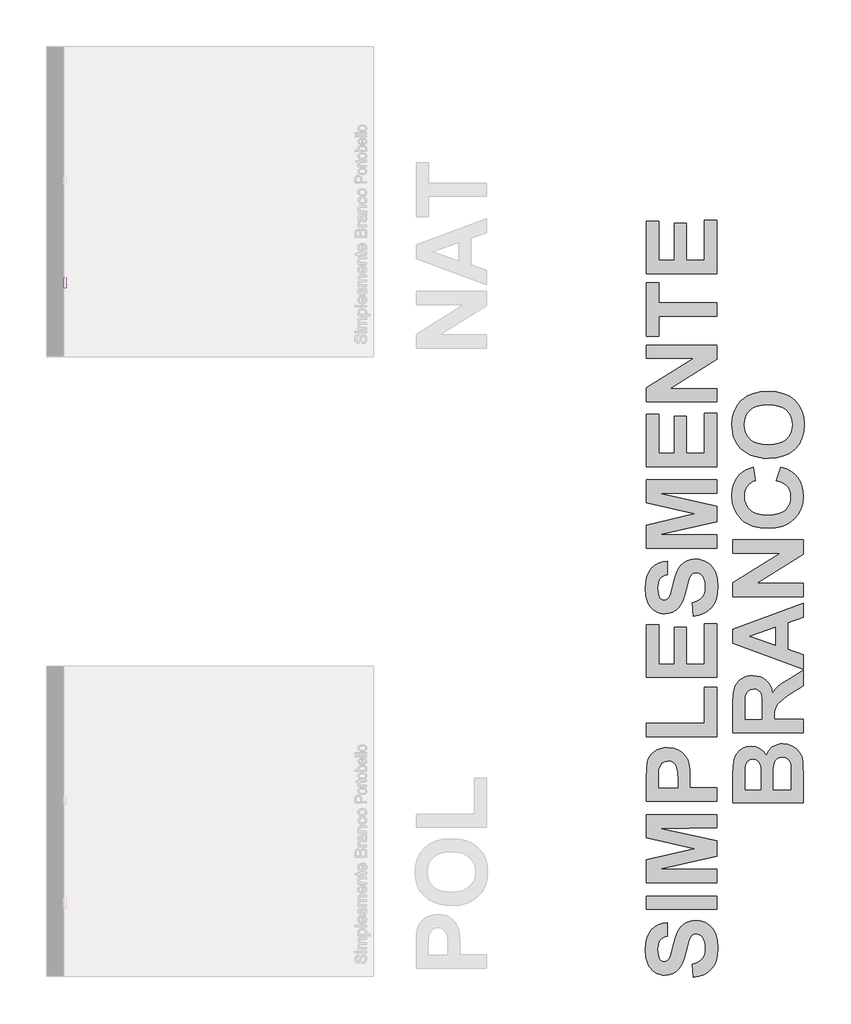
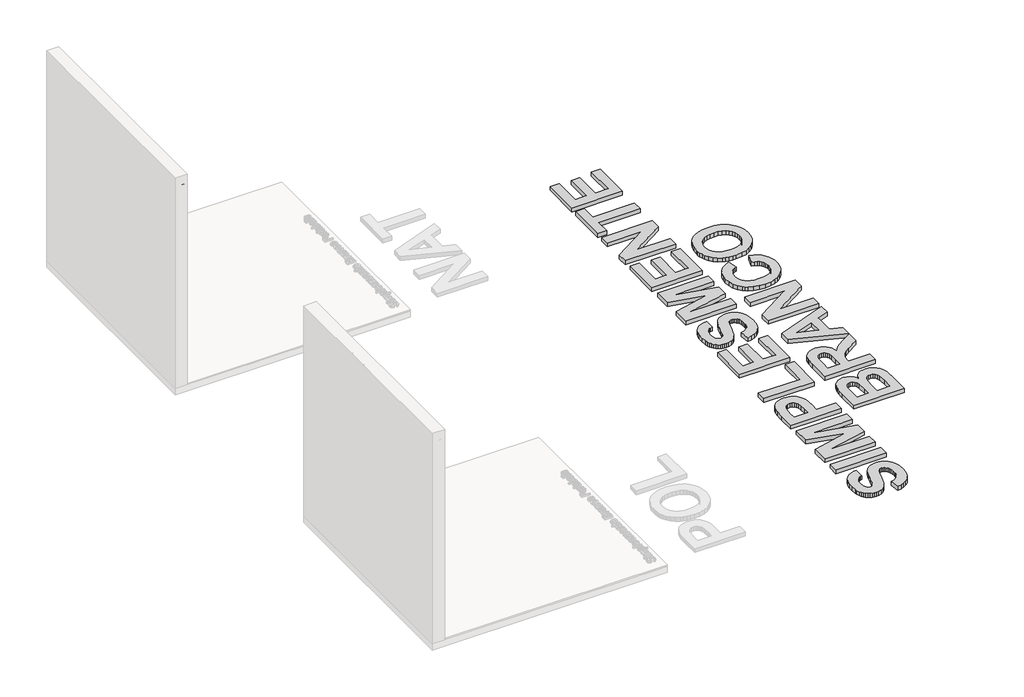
# One storey, part 4 of 6: 2 proxies.
"""IFC4 building model written with IfcOpenShell, lengths in millimetres."""

import ifcopenshell
import ifcopenshell.guid

model = None  # the IFC model being written
_history = None  # IfcOwnerHistory: only IFC2X3 demands one
_inside = {}  # id of a spatial element -> (the spatial element, [elements in it])
_under = {}  # id of a project, library or spatial element -> (it, [spatial elements below it])
_declared = {}  # id of a project -> (the project, [libraries it declares])
_typed = {}  # id of a type object -> (the type object, [elements of that type])
_made_of = {}  # id of a material, layer set ... -> (it, [elements and type objects made of it])


def new_model(schema):
    """Start an empty IFC model of exactly this schema.

    Asked for "IFC4X3", IfcOpenShell would pick the latest addendum, in which some entities
    have other attributes; the version numbers below select the first issue.
    IFC2X3 requires an IfcOwnerHistory on every rooted entity: one is made here for all.
    """
    global model, _history
    if schema == "IFC4X3":
        model = ifcopenshell.file(schema_version=(4, 3, 0, 0))
    else:
        model = ifcopenshell.file(schema=schema)
    _inside.clear()
    _under.clear()
    _declared.clear()
    _typed.clear()
    _made_of.clear()
    _history = None
    if model.schema == "IFC2X3":
        org = make("IfcOrganization", Name="unknown")
        user = make(
            "IfcPersonAndOrganization",
            ThePerson=make("IfcPerson", FamilyName="unknown"),
            TheOrganization=org,
        )
        app = make(
            "IfcApplication",
            ApplicationDeveloper=org,
            Version="unknown",
            ApplicationFullName="unknown",
            ApplicationIdentifier="unknown",
        )
        _history = make(
            "IfcOwnerHistory",
            OwningUser=user,
            OwningApplication=app,
            ChangeAction="ADDED",
            CreationDate=0,
        )
    return model


def make(cls, **values):
    """One entity of the class cls with the attributes given. An attribute that is None is left unset."""
    return model.create_entity(
        cls, **{name: value for name, value in values.items() if value is not None}
    )


def rooted(cls, **values):
    """An entity with a GlobalId (a new one), such as an element, a storey or a relation."""
    return make(cls, GlobalId=ifcopenshell.guid.new(), OwnerHistory=_history, **values)


def si_unit(unit_type, name, prefix=None):
    """IfcSIUnit, for example si_unit("LENGTHUNIT", "METRE", prefix="MILLI")."""
    return make("IfcSIUnit", UnitType=unit_type, Prefix=prefix, Name=name)


def assignment(units):
    """IfcUnitAssignment: the units of a project."""
    return None if units is None else make("IfcUnitAssignment", Units=units)


def point(xyz):
    """IfcCartesianPoint."""
    return None if xyz is None else make("IfcCartesianPoint", Coordinates=xyz)


def direction(xyz):
    """IfcDirection."""
    return None if xyz is None else make("IfcDirection", DirectionRatios=xyz)


def frame(location, z_axis=None, x_axis=None):
    """IfcAxis2Placement3D, a coordinate frame: its origin and axes. An axis left out is left unset."""
    return make(
        "IfcAxis2Placement3D",
        Location=point(location),
        Axis=direction(z_axis),
        RefDirection=direction(x_axis),
    )


def origin():
    """The frame at (0, 0, 0) with its axes left unset."""
    return frame((0.0, 0.0, 0.0))


def origin_with_axes():
    """The frame at (0, 0, 0) with the z axis (0, 0, 1) and the x axis (1, 0, 0) written out."""
    return frame((0.0, 0.0, 0.0), z_axis=(0.0, 0.0, 1.0), x_axis=(1.0, 0.0, 0.0))


def place(relative_to, where):
    """IfcLocalPlacement: puts the frame where relative to a parent placement (None: the world)."""
    return make(
        "IfcLocalPlacement", PlacementRelTo=relative_to, RelativePlacement=where
    )


def context(
    kind, dimensions, precision=None, world=None, true_north=None, identifier=None
):
    """IfcGeometricRepresentationContext, for example the 3D "Model" context."""
    return make(
        "IfcGeometricRepresentationContext",
        ContextIdentifier=identifier,
        ContextType=kind,
        CoordinateSpaceDimension=dimensions,
        Precision=precision,
        WorldCoordinateSystem=world,
        TrueNorth=true_north,
    )


def project(units=None, contexts=None):
    """IfcProject with its units and contexts."""
    return rooted(
        "IfcProject",
        Name="project",
        RepresentationContexts=contexts,
        UnitsInContext=assignment(units),
    )


def spatial(cls, under=None, at=None, **own):
    """A site, building, storey or space (cls), placed at a placement, below another one or the project."""
    s = rooted(cls, ObjectPlacement=at, **own)
    if under is not None:
        _under.setdefault(under.id(), (under, []))[1].append(s)
    return s


def polyline(points):
    """IfcPolyline through the points."""
    return make("IfcPolyline", Points=[point(p) for p in points])


def outline(outer, holes=None, kind="AREA"):
    """IfcArbitraryClosedProfileDef: a profile drawn as a closed curve; with holes, ...WithVoids."""
    if holes is None:
        return make("IfcArbitraryClosedProfileDef", ProfileType=kind, OuterCurve=outer)
    return make(
        "IfcArbitraryProfileDefWithVoids",
        ProfileType=kind,
        OuterCurve=outer,
        InnerCurves=holes,
    )


def extrude(swept, where, along, depth):
    """IfcExtrudedAreaSolid: the profile swept, set in the frame where, extruded along a direction by depth."""
    return make(
        "IfcExtrudedAreaSolid",
        SweptArea=swept,
        Position=where,
        ExtrudedDirection=direction(along),
        Depth=depth,
    )


def shape(context_of_items, identifier, shape_type, items):
    """IfcShapeRepresentation: the items that make up one representation, for example the "Body"."""
    return make(
        "IfcShapeRepresentation",
        ContextOfItems=context_of_items,
        RepresentationIdentifier=identifier,
        RepresentationType=shape_type,
        Items=items,
    )


def made_of(thing, what):
    """Note that an element or type object is made of a material, layer set ...; save() writes the relation."""
    if what is not None:
        _made_of.setdefault(what.id(), (what, []))[1].append(thing)
    return thing


def element(
    cls,
    number,
    at=None,
    inside=None,
    cuts=None,
    type_object=None,
    material=None,
    context=None,
    identifier="Body",
    shape_type=None,
    held_by="IfcProductDefinitionShape",
    body=None,
    shapes=None,
    **own,
):
    """One element of the class cls, such as IfcWall. Its Tag is "e" and its number.

    at: its placement. inside: the storey or other place that contains it. cuts: it is an
    opening in that element (IfcRelVoidsElement). A single representation is given by context,
    identifier, shape_type and body (its items); several are given by shapes. held_by: the class
    of the entity that holds the representations. save() writes the other relations.
    """
    e = rooted(cls, Tag="e%d" % number, ObjectPlacement=at, **own)
    if body is not None:
        shapes = [shape(context, identifier, shape_type, body)]
    if shapes is not None:
        e.Representation = make(held_by, Representations=shapes)
    if inside is not None:
        _inside.setdefault(inside.id(), (inside, []))[1].append(e)
    if cuts is not None:
        rooted(
            "IfcRelVoidsElement", RelatingBuildingElement=cuts, RelatedOpeningElement=e
        )
    if type_object is not None:
        _typed.setdefault(type_object.id(), (type_object, []))[1].append(e)
    return made_of(e, material)


def aggregate(whole, parts):
    """IfcRelAggregates: a whole, such as a stair, and the parts it consists of."""
    return rooted("IfcRelAggregates", RelatingObject=whole, RelatedObjects=parts)


def save(model, path):
    """Write the relations noted so far, then the file.

    IfcRelAggregates (storeys below a building ...), IfcRelContainedInSpatialStructure (elements
    in a storey), IfcRelDefinesByType, IfcRelAssociatesMaterial and IfcRelDeclares: one each for
    every whole, place, type object, material and project.
    """
    for whole, parts in _under.values():
        aggregate(whole, parts)
    for where, things in _inside.values():
        rooted(
            "IfcRelContainedInSpatialStructure",
            RelatedElements=things,
            RelatingStructure=where,
        )
    for kind, things in _typed.values():
        rooted("IfcRelDefinesByType", RelatedObjects=things, RelatingType=kind)
    for what, things in _made_of.values():
        rooted("IfcRelAssociatesMaterial", RelatedObjects=things, RelatingMaterial=what)
    for by, libraries in _declared.values():
        rooted("IfcRelDeclares", RelatingContext=by, RelatedDefinitions=libraries)
    model.write(path)


model = new_model("IFC4")

# Units and contexts
model_context = context("Model", 3, world=origin())
ifc_project = project(units=[si_unit("LENGTHUNIT", "METRE", prefix="MILLI")], contexts=[model_context])

# Site, building, storey
site = spatial("IfcSite", under=ifc_project)
building = spatial("IfcBuilding", under=site)
storey = spatial("IfcBuildingStorey", under=building, Name="PORTOBELLO - SHOWROOM", Elevation=0.0)

# Proxies
placement = place(None, origin())
element("IfcBuildingElementProxy", 1, Name="10mm Arial", ObjectType="10mm Arial", at=placement, inside=storey, context=model_context, shape_type="SweptSolid", body=[
    extrude(outline(polyline([(-2537.0459991, 2512.7580215), (-2524.4889603, 2512.7580215), (-2520.4422583, 2500.18872), (-2510.5584954, 2492.242469), (-2495.4998591, 2489.2135739), (-2482.3787346, 2491.506705), (-2473.9051859, 2497.8097498), (-2471.1215455, 2506.2342475), (-2473.2062102, 2514.070134), (-2481.7410724, 2519.7723049), (-2500.0248076, 2524.5670336), (-2519.7064943, 2530.7597138), (-2530.3873349, 2540.1039165), (-2533.9067394, 2552.5873789), (-2529.5534691, 2566.7998866), (-2516.8370148, 2576.8308024), (-2498.2221858, 2580.2521049), (-2478.3565581, 2576.6713868), (-2465.1128063, 2566.1499618), (-2460.1341366, 2550.4291379), (-2472.6911754, 2550.4291379), (-2474.9965692, 2557.9216678), (-2479.8035606, 2563.3295332), (-2497.7316765, 2567.6950662), (-2515.7088433, 2563.3785841), (-2521.3497006, 2552.9552609), (-2517.3520496, 2544.2487203), (-2496.8487597, 2537.234437), (-2474.6286872, 2530.9313921), (-2462.4763186, 2520.7533236), (-2458.5645067, 2506.5530786), (-2463.0649298, 2491.5312304), (-2476.0143761, 2480.568347), (-2495.0093497, 2476.6565351), (-2517.4378887, 2480.8749153), (-2531.625871, 2493.5791069), (-2537.0459991, 2512.7580215)])), frame((241170.995962, 0.0, 0.0), z_axis=(1.0, 0.0, 0.0), x_axis=(0.0, 1.0, 0.0)), (0.0, 0.0, 1.0), 20.0),
    extrude(outline(polyline([(241190.995962, -2428.7415397), (241190.995962, -2441.2985784), (241170.995962, -2441.2985784), (241170.995962, -2428.7415397), (241190.995962, -2428.7415397)])), frame((0.0, 0.0, 2566.1254363), z_axis=(0.0, 0.0, 1.0), x_axis=(1.0, 0.0, 0.0)), (0.0, 0.0, 1.0), 12.5570388),
    extrude(outline(polyline([(241190.995962, -2428.7415397), (241190.995962, -2441.2985784), (241170.995962, -2441.2985784), (241170.995962, -2428.7415397), (241190.995962, -2428.7415397)])), frame((0.0, 0.0, 2478.2261649), z_axis=(0.0, 0.0, 1.0), x_axis=(1.0, 0.0, 0.0)), (0.0, 0.0, 1.0), 73.7726028),
    extrude(outline(polyline([(-2409.9059815, 2478.2261649), (-2409.9059815, 2551.9987677), (-2397.3489427, 2551.9987677), (-2397.3489427, 2539.8586619), (-2388.7159786, 2549.8037385), (-2376.42872, 2553.5683975), (-2363.8471557, 2549.7301621), (-2356.9309742, 2538.9757451), (-2347.1330504, 2549.9202344), (-2334.7599526, 2553.5683975), (-2325.3207138, 2552.0508843), (-2318.3401529, 2547.4983446), (-2314.0267365, 2539.7881511), (-2312.5889311, 2528.7976765), (-2312.5889311, 2478.2261649), (-2325.1459698, 2478.2261649), (-2325.1459698, 2523.4020739), (-2326.3109295, 2533.8867108), (-2330.5293097, 2539.0493215), (-2337.7030086, 2541.0113588), (-2350.0515809, 2535.9836382), (-2353.7395979, 2529.44147), (-2354.9689369, 2519.8704068), (-2354.9689369, 2478.2261649), (-2367.5259757, 2478.2261649), (-2367.5259757, 2524.8000255), (-2370.4322434, 2536.9646568), (-2379.9603871, 2541.0113588), (-2389.2555389, 2538.3135575), (-2395.4359564, 2530.4163573), (-2397.3489427, 2515.4312974), (-2397.3489427, 2478.2261649), (-2409.9059815, 2478.2261649)])), frame((241170.995962, 0.0, 0.0), z_axis=(1.0, 0.0, 0.0), x_axis=(0.0, 1.0, 0.0)), (0.0, 0.0, 1.0), 20.0),
    extrude(outline(polyline([(-2293.7533729, 2449.9728277), (-2293.7533729, 2551.9987677), (-2281.1963341, 2551.9987677), (-2281.1963341, 2539.6869836), (-2272.5143191, 2550.0980441), (-2260.7911461, 2553.5683975), (-2244.8741185, 2548.7123552), (-2234.4753208, 2535.027145), (-2230.9681791, 2515.676552), (-2234.9290419, 2495.3326777), (-2246.4314856, 2481.4757892), (-2262.3117251, 2476.6565351), (-2273.2378203, 2479.8816339), (-2281.1963341, 2488.0363515), (-2281.1963341, 2449.9728277), (-2293.7533729, 2449.9728277)]), holes=[polyline([(-2281.1963341, 2514.5238551), (-2279.8382364, 2503.2666661), (-2275.7639433, 2495.3939914), (-2269.7521384, 2490.7586782), (-2262.5815052, 2489.2135739), (-2255.294376, 2490.8138605), (-2249.1292869, 2495.6147206), (-2244.9262351, 2503.7755695), (-2243.5252178, 2515.4558228), (-2244.8925126, 2526.6516982), (-2248.9943968, 2534.6347375), (-2254.9970047, 2539.4172035), (-2262.0664704, 2541.0113588), (-2269.1635272, 2539.3160359), (-2275.3960613, 2534.2300673), (-2279.7462659, 2525.9128686), (-2281.1963341, 2514.5238551)])]), frame((241170.995962, 0.0, 0.0), z_axis=(1.0, 0.0, 0.0), x_axis=(0.0, 1.0, 0.0)), (0.0, 0.0, 1.0), 20.0),
    extrude(outline(polyline([(241190.995962, -2204.2844717), (241190.995962, -2216.8415104), (241170.995962, -2216.8415104), (241170.995962, -2204.2844717), (241190.995962, -2204.2844717)])), frame((0.0, 0.0, 2478.2261649), z_axis=(0.0, 0.0, 1.0), x_axis=(1.0, 0.0, 0.0)), (0.0, 0.0, 1.0), 100.4563101),
    extrude(outline(polyline([(-2133.7982814, 2500.2009828), (-2121.4864973, 2498.6313529), (-2125.922541, 2489.3545953), (-2133.0012037, 2482.4200197), (-2142.5630699, 2478.0974062), (-2154.4487241, 2476.6565351), (-2169.182398, 2479.1428042), (-2180.5192948, 2486.6016117), (-2187.748176, 2498.5485795), (-2190.1578031, 2514.4993297), (-2187.7236505, 2530.9865744), (-2180.4211929, 2543.3167526), (-2169.2375803, 2551.0054863), (-2155.1599626, 2553.5683975), (-2141.5207376, 2551.0116177), (-2130.6222335, 2543.3412781), (-2123.4761258, 2531.0356253), (-2121.0940898, 2514.5729061), (-2121.1676662, 2511.1883917), (-2177.6007643, 2511.1883917), (-2175.4271948, 2501.7890067), (-2170.3780145, 2494.8789566), (-2163.0908853, 2490.6299195), (-2154.2034694, 2489.2135739), (-2141.8916853, 2491.8377988), (-2133.7982814, 2500.2009828)]), holes=[polyline([(-2177.6007643, 2523.7454305), (-2133.6511286, 2523.7454305), (-2138.6788492, 2535.1252469), (-2145.9997009, 2539.5398308), (-2155.2090135, 2541.0113588), (-2170.6723201, 2536.314732), (-2175.5375594, 2530.8240932), (-2177.6007643, 2523.7454305)])]), frame((241170.995962, 0.0, 0.0), z_axis=(1.0, 0.0, 0.0), x_axis=(0.0, 1.0, 0.0)), (0.0, 0.0, 1.0), 20.0),
    extrude(outline(polyline([(-2113.2459406, 2500.2009828), (-2100.6889018, 2501.7706126), (-2094.8763663, 2492.4509354), (-2081.5590381, 2489.2135739), (-2068.7567447, 2492.1811553), (-2064.5874154, 2499.1463877), (-2068.7812701, 2504.787245), (-2081.7061909, 2508.3679631), (-2100.6153254, 2514.5115924), (-2108.8681449, 2521.6852913), (-2111.6763108, 2531.8143089), (-2109.4199679, 2541.1707743), (-2103.2640758, 2548.3199478), (-2095.2810365, 2552.0355559), (-2084.4775686, 2553.5683975), (-2069.1982031, 2551.1035882), (-2059.4861184, 2544.4326613), (-2055.1696363, 2533.1632095), (-2067.7266751, 2531.5935797), (-2072.4478273, 2538.5220239), (-2083.4965499, 2541.0113588), (-2095.5140284, 2538.6323885), (-2099.119272, 2533.0896331), (-2097.6232185, 2529.4353387), (-2092.9388545, 2526.663961), (-2082.1231238, 2523.9906851), (-2063.6922359, 2518.0800477), (-2055.1328481, 2511.3845954), (-2052.0303766, 2500.4707629), (-2055.6724084, 2488.4532844), (-2066.1815707, 2479.7344811), (-2081.7307164, 2476.6565351), (-2094.3919884, 2478.1403258), (-2103.6319578, 2482.5916979), (-2109.8001126, 2489.9616006), (-2113.2459406, 2500.2009828)])), frame((241170.995962, 0.0, 0.0), z_axis=(1.0, 0.0, 0.0), x_axis=(0.0, 1.0, 0.0)), (0.0, 0.0, 1.0), 20.0),
    extrude(outline(polyline([(-2037.903708, 2478.2261649), (-2037.903708, 2551.9987677), (-2025.3466692, 2551.9987677), (-2025.3466692, 2539.8586619), (-2016.7137051, 2549.8037385), (-2004.4264464, 2553.5683975), (-1991.8448822, 2549.7301621), (-1984.9287007, 2538.9757451), (-1975.1307769, 2549.9202344), (-1962.7576791, 2553.5683975), (-1953.3184403, 2552.0508843), (-1946.3378794, 2547.4983446), (-1942.024463, 2539.7881511), (-1940.5866575, 2528.7976765), (-1940.5866575, 2478.2261649), (-1953.1436963, 2478.2261649), (-1953.1436963, 2523.4020739), (-1954.308656, 2533.8867108), (-1958.5270362, 2539.0493215), (-1965.7007351, 2541.0113588), (-1978.0493074, 2535.9836382), (-1981.7373244, 2529.44147), (-1982.9666634, 2519.8704068), (-1982.9666634, 2478.2261649), (-1995.5237021, 2478.2261649), (-1995.5237021, 2524.8000255), (-1998.4299699, 2536.9646568), (-2007.9581136, 2541.0113588), (-2017.2532653, 2538.3135575), (-2023.4336829, 2530.4163573), (-2025.3466692, 2515.4312974), (-2025.3466692, 2478.2261649), (-2037.903708, 2478.2261649)])), frame((241170.995962, 0.0, 0.0), z_axis=(1.0, 0.0, 0.0), x_axis=(0.0, 1.0, 0.0)), (0.0, 0.0, 1.0), 20.0),
    extrude(outline(polyline([(-1870.1004673, 2500.2009828), (-1857.7886832, 2498.6313529), (-1862.2247269, 2489.3545953), (-1869.3033896, 2482.4200197), (-1878.8652558, 2478.0974062), (-1890.7509099, 2476.6565351), (-1905.4845838, 2479.1428042), (-1916.8214806, 2486.6016117), (-1924.0503619, 2498.5485795), (-1926.4599889, 2514.4993297), (-1924.0258364, 2530.9865744), (-1916.7233788, 2543.3167526), (-1905.5397661, 2551.0054863), (-1891.4621484, 2553.5683975), (-1877.8229235, 2551.0116177), (-1866.9244194, 2543.3412781), (-1859.7783116, 2531.0356253), (-1857.3962757, 2514.5729061), (-1857.4698521, 2511.1883917), (-1913.9029502, 2511.1883917), (-1911.7293807, 2501.7890067), (-1906.6802003, 2494.8789566), (-1899.3930711, 2490.6299195), (-1890.5056553, 2489.2135739), (-1878.1938712, 2491.8377988), (-1870.1004673, 2500.2009828)]), holes=[polyline([(-1913.9029502, 2523.7454305), (-1869.9533145, 2523.7454305), (-1874.9810351, 2535.1252469), (-1882.3018868, 2539.5398308), (-1891.5111994, 2541.0113588), (-1906.9745059, 2536.314732), (-1911.8397453, 2530.8240932), (-1913.9029502, 2523.7454305)])]), frame((241170.995962, 0.0, 0.0), z_axis=(1.0, 0.0, 0.0), x_axis=(0.0, 1.0, 0.0)), (0.0, 0.0, 1.0), 20.0),
    extrude(outline(polyline([(-1844.8392369, 2478.2261649), (-1844.8392369, 2551.9987677), (-1832.2821982, 2551.9987677), (-1832.2821982, 2541.6980718), (-1822.6804781, 2550.6008161), (-1809.5716163, 2553.5683975), (-1797.7135533, 2551.1771646), (-1789.6201494, 2544.8986452), (-1785.8554904, 2535.6648071), (-1785.1933028, 2523.5247013), (-1785.1933028, 2478.2261649), (-1797.7503415, 2478.2261649), (-1797.7503415, 2521.8324441), (-1799.1973441, 2532.9424804), (-1804.3109038, 2538.8163295), (-1812.9316052, 2541.0113588), (-1826.5555018, 2536.08174), (-1830.8505241, 2528.938698), (-1832.2821982, 2517.3688092), (-1832.2821982, 2478.2261649), (-1844.8392369, 2478.2261649)])), frame((241170.995962, 0.0, 0.0), z_axis=(1.0, 0.0, 0.0), x_axis=(0.0, 1.0, 0.0)), (0.0, 0.0, 1.0), 20.0),
    extrude(outline(polyline([(-1741.2436671, 2488.6985391), (-1739.6740372, 2477.8582829), (-1749.0672908, 2476.6565351), (-1759.5887159, 2478.7411997), (-1764.8371657, 2484.2103787), (-1766.3577446, 2498.4596747), (-1766.3577446, 2539.4417289), (-1775.7755237, 2539.4417289), (-1775.7755237, 2551.9987677), (-1766.3577446, 2551.9987677), (-1766.3577446, 2569.9268836), (-1753.8007059, 2577.309049), (-1753.8007059, 2551.9987677), (-1741.2436671, 2551.9987677), (-1741.2436671, 2539.4417289), (-1753.8007059, 2539.4417289), (-1753.8007059, 2498.8275567), (-1753.1385183, 2492.3528336), (-1750.99254, 2490.0597024), (-1746.7128461, 2489.2135739), (-1741.2436671, 2488.6985391)])), frame((241170.995962, 0.0, 0.0), z_axis=(1.0, 0.0, 0.0), x_axis=(0.0, 1.0, 0.0)), (0.0, 0.0, 1.0), 20.0),
    extrude(outline(polyline([(-1677.0359962, 2500.2009828), (-1664.7242121, 2498.6313529), (-1669.1602558, 2489.3545953), (-1676.2389185, 2482.4200197), (-1685.8007847, 2478.0974062), (-1697.6864389, 2476.6565351), (-1712.4201128, 2479.1428042), (-1723.7570096, 2486.6016117), (-1730.9858908, 2498.5485795), (-1733.3955179, 2514.4993297), (-1730.9613653, 2530.9865744), (-1723.6589077, 2543.3167526), (-1712.4752951, 2551.0054863), (-1698.3976774, 2553.5683975), (-1684.7584524, 2551.0116177), (-1673.8599483, 2543.3412781), (-1666.7138405, 2531.0356253), (-1664.3318046, 2514.5729061), (-1664.405381, 2511.1883917), (-1720.8384791, 2511.1883917), (-1718.6649096, 2501.7890067), (-1713.6157292, 2494.8789566), (-1706.3286001, 2490.6299195), (-1697.4411842, 2489.2135739), (-1685.1294001, 2491.8377988), (-1677.0359962, 2500.2009828)]), holes=[polyline([(-1720.8384791, 2523.7454305), (-1676.8888434, 2523.7454305), (-1681.916564, 2535.1252469), (-1689.2374157, 2539.5398308), (-1698.4467283, 2541.0113588), (-1713.9100348, 2536.314732), (-1718.7752742, 2530.8240932), (-1720.8384791, 2523.7454305)])]), frame((241170.995962, 0.0, 0.0), z_axis=(1.0, 0.0, 0.0), x_axis=(0.0, 1.0, 0.0)), (0.0, 0.0, 1.0), 20.0),
    extrude(outline(polyline([(-1610.9643899, 2478.2261649), (-1610.9643899, 2578.6824751), (-1572.631086, 2578.6824751), (-1553.8568415, 2575.7271564), (-1542.7713307, 2566.6404711), (-1538.7614169, 2553.7891267), (-1542.1336686, 2542.0536911), (-1552.3239998, 2533.1632095), (-1539.9509021, 2523.7944814), (-1535.6221572, 2508.1717593), (-1538.5774759, 2494.6704901), (-1545.8983276, 2485.0565073), (-1556.8244229, 2479.9552103), (-1572.9253916, 2478.2261649), (-1610.9643899, 2478.2261649)]), holes=[polyline([(-1598.4073511, 2537.8720991), (-1575.4760401, 2537.8720991), (-1562.0851354, 2538.9512196), (-1554.0285197, 2543.5987955), (-1551.3184557, 2551.7780385), (-1553.8445787, 2559.9695443), (-1561.0795913, 2564.8133239), (-1577.2173482, 2566.1254363), (-1598.4073511, 2566.1254363), (-1598.4073511, 2537.8720991)]), polyline([(-1598.4073511, 2490.7832037), (-1572.6556114, 2490.7832037), (-1563.3359342, 2491.273713), (-1555.4509968, 2494.0083025), (-1550.2270725, 2499.5878461), (-1548.179196, 2508.049132), (-1550.5826917, 2517.8102676), (-1558.3695273, 2523.6350659), (-1573.8818847, 2525.3150603), (-1598.4073511, 2525.3150603), (-1598.4073511, 2490.7832037)])]), frame((241170.995962, 0.0, 0.0), z_axis=(1.0, 0.0, 0.0), x_axis=(0.0, 1.0, 0.0)), (0.0, 0.0, 1.0), 20.0),
    extrude(outline(polyline([(-1519.9258588, 2478.2261649), (-1519.9258588, 2551.9987677), (-1508.9384499, 2551.9987677), (-1508.9384499, 2541.0849352), (-1501.1393516, 2551.1403764), (-1493.2912023, 2553.5683975), (-1480.6851126, 2549.6933739), (-1484.8789674, 2538.4361848), (-1493.7081353, 2541.0113588), (-1500.8082578, 2538.5342867), (-1505.3332063, 2531.6671561), (-1507.36882, 2517.0009272), (-1507.36882, 2478.2261649), (-1519.9258588, 2478.2261649)])), frame((241170.995962, 0.0, 0.0), z_axis=(1.0, 0.0, 0.0), x_axis=(0.0, 1.0, 0.0)), (0.0, 0.0, 1.0), 20.0),
    extrude(outline(polyline([(-1425.748068, 2487.643944), (-1437.9249621, 2479.1336072), (-1451.3771804, 2476.6565351), (-1461.8710143, 2478.1464572), (-1469.6118646, 2482.6162234), (-1474.3851335, 2489.4036462), (-1475.9762231, 2497.846538), (-1473.5727274, 2507.7793519), (-1467.2574198, 2514.989839), (-1458.4650401, 2519.1101173), (-1447.6002585, 2520.9985782), (-1425.8216444, 2525.3150603), (-1425.748068, 2528.1109635), (-1429.2061588, 2537.3815898), (-1443.0875727, 2541.0113588), (-1455.7917643, 2538.5956003), (-1461.8495545, 2530.0239499), (-1474.4065932, 2531.5935797), (-1468.9742025, 2543.8563129), (-1458.0358445, 2551.0422745), (-1441.4688919, 2553.5683975), (-1426.2508401, 2551.3365801), (-1417.6546641, 2545.7325111), (-1413.8041659, 2537.2099115), (-1413.1910293, 2526.2225026), (-1413.1910293, 2510.5997805), (-1412.5533671, 2488.7843782), (-1410.0517696, 2478.2261649), (-1422.6088083, 2478.2261649), (-1425.748068, 2487.643944)]), holes=[polyline([(-1425.748068, 2512.7580215), (-1446.0061032, 2508.9075233), (-1456.8095711, 2506.8719096), (-1461.7024017, 2503.5609717), (-1463.4191843, 2498.7294548), (-1459.6790507, 2491.9359006), (-1448.7039045, 2489.2135739), (-1435.999713, 2492.2179435), (-1427.8082072, 2499.4897443), (-1425.8216444, 2509.2018289), (-1425.748068, 2512.7580215)])]), frame((241170.995962, 0.0, 0.0), z_axis=(1.0, 0.0, 0.0), x_axis=(0.0, 1.0, 0.0)), (0.0, 0.0, 1.0), 20.0),
    extrude(outline(polyline([(-1395.9251009, 2478.2261649), (-1395.9251009, 2551.9987677), (-1383.3680622, 2551.9987677), (-1383.3680622, 2541.6980718), (-1373.7663421, 2550.6008161), (-1360.6574803, 2553.5683975), (-1348.7994174, 2551.1771646), (-1340.7060135, 2544.8986452), (-1336.9413544, 2535.6648071), (-1336.2791668, 2523.5247013), (-1336.2791668, 2478.2261649), (-1348.8362056, 2478.2261649), (-1348.8362056, 2521.8324441), (-1350.2832081, 2532.9424804), (-1355.3967678, 2538.8163295), (-1364.0174692, 2541.0113588), (-1377.6413658, 2536.08174), (-1381.9363881, 2528.938698), (-1383.3680622, 2517.3688092), (-1383.3680622, 2478.2261649), (-1395.9251009, 2478.2261649)])), frame((241170.995962, 0.0, 0.0), z_axis=(1.0, 0.0, 0.0), x_axis=(0.0, 1.0, 0.0)), (0.0, 0.0, 1.0), 20.0),
    extrude(outline(polyline([(-1271.9243431, 2504.9098723), (-1259.3673043, 2503.3402425), (-1262.8683147, 2492.1719582), (-1269.447271, 2483.7321321), (-1278.4849054, 2478.4254343), (-1289.3619497, 2476.6565351), (-1302.7191318, 2479.1244101), (-1313.1639148, 2486.5280353), (-1319.9053523, 2498.5424481), (-1322.1524982, 2514.8426862), (-1318.3142627, 2535.7015953), (-1306.6156152, 2549.1047627), (-1289.5336279, 2553.5683975), (-1278.9232981, 2552.0355559), (-1270.4405524, 2547.437031), (-1264.3551711, 2540.0180774), (-1260.9369342, 2530.0239499), (-1273.4939729, 2528.45432), (-1279.3187712, 2537.8598364), (-1289.4355261, 2541.0113588), (-1297.5503898, 2539.460123), (-1303.9913903, 2534.8064158), (-1308.1944421, 2526.798851), (-1309.5954594, 2515.1860427), (-1308.225099, 2503.4168846), (-1304.1140177, 2495.3817286), (-1297.789513, 2490.7556126), (-1289.7788826, 2489.2135739), (-1277.9453451, 2493.0640721), (-1271.9243431, 2504.9098723)])), frame((241170.995962, 0.0, 0.0), z_axis=(1.0, 0.0, 0.0), x_axis=(0.0, 1.0, 0.0)), (0.0, 0.0, 1.0), 20.0),
    extrude(outline(polyline([(-1251.5191551, 2515.1124663), (-1248.8029597, 2532.8995608), (-1240.6543735, 2545.4014173), (-1230.5866696, 2551.5266525), (-1218.5324029, 2553.5683975), (-1205.3407677, 2551.0821284), (-1194.8040142, 2543.6233209), (-1187.8970297, 2531.7805864), (-1185.5947016, 2516.1425359), (-1189.665929, 2493.7998361), (-1201.523992, 2481.1569582), (-1218.5324029, 2476.6565351), (-1231.8834536, 2479.1336072), (-1242.4079444, 2486.5648235), (-1249.2413524, 2498.6558784), (-1251.5191551, 2515.1124663)]), holes=[polyline([(-1238.9621163, 2515.1369918), (-1237.5089825, 2503.7725038), (-1233.1495808, 2495.6760342), (-1226.5890186, 2490.829189), (-1218.5324029, 2489.2135739), (-1210.5125754, 2490.838386), (-1203.9642759, 2495.7128224), (-1199.6048742, 2503.9165909), (-1198.1517403, 2515.5293992), (-1199.6140713, 2526.5627934), (-1204.0010641, 2534.5488984), (-1210.5585606, 2539.3957437), (-1218.5324029, 2541.0113588), (-1226.5890186, 2539.4018751), (-1233.1495808, 2534.5734239), (-1237.5089825, 2526.4953484), (-1238.9621163, 2515.1369918)])]), frame((241170.995962, 0.0, 0.0), z_axis=(1.0, 0.0, 0.0), x_axis=(0.0, 1.0, 0.0)), (0.0, 0.0, 1.0), 20.0),
])
element("IfcBuildingElementProxy", 2, Name="600mm Arial", ObjectType="600mm Arial", at=placement, inside=storey, context=model_context, shape_type="SweptSolid", body=[
    extrude(outline(polyline([(246657.8926383, -8039.7904202), (246648.1758822, -7923.1893459), (246676.2444025, -7916.1295152), (246700.3275345, -7906.1850226), (246720.4252783, -7893.3558679), (246736.5376338, -7877.6420513), (246748.8923374, -7858.9961275), (246757.7171258, -7837.3706516), (246763.0119988, -7812.7656235), (246764.7769564, -7785.1810432), (246763.2160127, -7756.1920879), (246758.5331815, -7731.0177186), (246750.7284627, -7709.6579352), (246739.8018565, -7692.1127378), (246726.787666, -7678.4295713), (246712.7201943, -7668.655881), (246697.5994413, -7662.7916668), (246681.4254072, -7660.8369288), (246661.593356, -7664.0821735), (246644.9116594, -7673.8179078), (246630.8109761, -7691.6762429), (246618.721965, -7719.2892902), (246592.760007, -7820.4042843), (246580.0921657, -7867.3369759), (246565.9250592, -7906.7164077), (246550.2586877, -7938.5425798), (246533.093051, -7962.8154923), (246506.5143068, -7987.9898616), (246477.1837469, -8005.9715539), (246445.1013712, -8016.7605693), (246410.2671798, -8020.3569078), (246387.3417082, -8018.7058184), (246365.1753581, -8013.7525501), (246343.7681296, -8005.4971029), (246323.1200227, -7993.9394769), (246304.0565821, -7979.2694524), (246287.4033525, -7961.6768099), (246273.1603339, -7941.1615493), (246261.3275263, -7917.7236706), (246252.028287, -7891.5434652), (246245.3859732, -7862.8012244), (246240.0721222, -7797.630637), (246243.3837901, -7743.7187715), (246253.3187937, -7696.9141817), (246269.8771331, -7657.2168678), (246293.0588083, -7624.6268295), (246321.7630929, -7599.0396879), (246354.8892607, -7580.3510635), (246392.4373118, -7568.5609565), (246434.407246, -7563.6693669), (246434.407246, -7680.2704412), (246412.7390694, -7685.5415916), (246394.3446047, -7693.1565299), (246379.2238518, -7703.1152561), (246367.3768107, -7715.4177702), (246358.4428986, -7730.5764792), (246352.0615329, -7749.1037902), (246346.9564403, -7796.2642182), (246352.3841595, -7845.9107693), (246359.1688086, -7866.1793155), (246368.6673174, -7883.4113753), (246384.9884313, -7898.669719), (246406.016099, -7903.7558335), (246425.8671282, -7899.1251919), (246442.605759, -7885.233267), (246452.3272597, -7869.2679914), (246462.2100737, -7844.9049333), (246482.4596418, -7770.9854697), (246503.5252656, -7692.0937597), (246525.5777474, -7636.8486869), (246552.2798489, -7598.1334865), (246587.2943317, -7568.8313936), (246608.0278397, -7558.0708453), (246631.0576906, -7550.3847393), (246656.3838842, -7545.7730757), (246684.0064206, -7544.2358545), (246709.702686, -7546.0530018), (246734.5639177, -7551.5044436), (246758.5901156, -7560.59018), (246781.7812798, -7573.3102109), (246803.0936181, -7589.3561433), (246821.4833383, -7608.4195839), (246836.9504404, -7630.5005328), (246849.4949245, -7655.5989899), (246859.1927026, -7683.8430571), (246866.119687, -7715.3608361), (246871.6612745, -7788.2175295), (246868.2499719, -7842.7034807), (246858.0160642, -7890.4712059), (246840.9595512, -7931.5207052), (246817.0804331, -7965.8519786), (246786.6633804, -7993.7022514), (246749.9930637, -8015.3087493), (246707.069483, -8030.6714723), (246657.8926383, -8039.7904202)])), origin_with_axes(), (0.0, 0.0, 1.0), 50.0),
    extrude(outline(polyline([(246861.9445183, -7447.0682926), (246249.7888784, -7447.0682926), (246249.7888784, -7330.4672183), (246861.9445183, -7330.4672183), (246861.9445183, -7447.0682926)])), origin_with_axes(), (0.0, 0.0, 1.0), 50.0),
    extrude(outline(polyline([(246861.9445183, -7213.866144), (246249.7888784, -7213.866144), (246249.7888784, -7014.0653449), (246667.3057459, -6917.5050802), (246249.7888784, -6820.9448156), (246249.7888784, -6621.1440164), (246861.9445183, -6621.1440164), (246861.9445183, -6737.7450907), (246380.054141, -6742.6034688), (246861.9445183, -6849.1841383), (246861.9445183, -6985.6741979), (246380.054141, -7092.4066917), (246861.9445183, -7097.2650698), (246861.9445183, -7213.866144)])), origin_with_axes(), (0.0, 0.0, 1.0), 50.0),
    extrude(outline(polyline([(246861.9445183, -6504.5429422), (246249.7888784, -6504.5429422), (246249.7888784, -6307.3231564), (246252.0662431, -6214.6723679), (246258.8983373, -6161.1163406), (246267.7468482, -6135.9941609), (246280.6281924, -6113.0070106), (246297.5423701, -6092.1548898), (246318.4893811, -6073.4377984), (246343.1181318, -6057.9944188), (246371.0775284, -6046.9634334), (246402.3675709, -6040.3448421), (246436.9882593, -6038.138645), (246488.5515925, -6043.3196498), (246510.9883796, -6049.7959058), (246531.1952471, -6058.8626641), (246565.2798059, -6082.395433), (246591.1658517, -6111.5457016), (246609.2898794, -6143.7514345), (246620.0883838, -6176.4505964), (246626.5788733, -6231.2971304), (246628.7423698, -6306.2603862), (246628.7423698, -6387.9418679), (246861.9445183, -6387.9418679), (246861.9445183, -6504.5429422)]), holes=[polyline([(246356.6731965, -6387.9418679), (246521.8580517, -6387.9418679), (246521.8580517, -6315.5216694), (246519.580687, -6250.2941479), (246512.7485928, -6210.9906282), (246501.0391424, -6187.4958154), (246484.1297093, -6169.6944144), (246463.0451075, -6158.4783931), (246438.8101511, -6154.7397193), (246409.8496629, -6159.9966362), (246386.4307623, -6175.767387), (246369.6541754, -6199.5468704), (246360.6206287, -6228.8299853), (246356.6731965, -6324.0238311), (246356.6731965, -6387.9418679)])]), origin_with_axes(), (0.0, 0.0, 1.0), 50.0),
    extrude(outline(polyline([(246861.9445183, -5940.9710831), (246249.7888784, -5940.9710831), (246249.7888784, -5824.3700089), (246755.0602002, -5824.3700089), (246755.0602002, -5513.4338108), (246861.9445183, -5513.4338108), (246861.9445183, -5940.9710831)])), origin_with_axes(), (0.0, 0.0, 1.0), 50.0),
    extrude(outline(polyline([(246861.9445183, -5425.9830051), (246249.7888784, -5425.9830051), (246249.7888784, -4969.2954641), (246356.6731965, -4969.2954641), (246356.6731965, -5309.3819308), (246492.7077831, -5309.3819308), (246492.7077831, -4988.7289765), (246599.5921012, -4988.7289765), (246599.5921012, -5309.3819308), (246755.0602002, -5309.3819308), (246755.0602002, -4959.5787079), (246861.9445183, -4959.5787079), (246861.9445183, -5425.9830051)])), origin_with_axes(), (0.0, 0.0, 1.0), 50.0),
    extrude(outline(polyline([(246657.8926383, -4891.5614146), (246648.1758822, -4774.9603403), (246676.2444025, -4767.9005097), (246700.3275345, -4757.956017), (246720.4252783, -4745.1268623), (246736.5376338, -4729.4130457), (246748.8923374, -4710.767122), (246757.7171258, -4689.141646), (246763.0119988, -4664.5366179), (246764.7769564, -4636.9520376), (246763.2160127, -4607.9630823), (246758.5331815, -4582.788713), (246750.7284627, -4561.4289296), (246739.8018565, -4543.8837322), (246726.787666, -4530.2005658), (246712.7201943, -4520.4268755), (246697.5994413, -4514.5626613), (246681.4254072, -4512.6079232), (246661.593356, -4515.8531679), (246644.9116594, -4525.5889022), (246630.8109761, -4543.4472373), (246618.721965, -4571.0602847), (246592.760007, -4672.1752788), (246580.0921657, -4719.1079703), (246565.9250592, -4758.4874021), (246550.2586877, -4790.3135742), (246533.093051, -4814.5864867), (246506.5143068, -4839.760856), (246477.1837469, -4857.7425483), (246445.1013712, -4868.5315638), (246410.2671798, -4872.1279022), (246387.3417082, -4870.4768128), (246365.1753581, -4865.5235445), (246343.7681296, -4857.2680974), (246323.1200227, -4845.7104713), (246304.0565821, -4831.0404469), (246287.4033525, -4813.4478043), (246273.1603339, -4792.9325437), (246261.3275263, -4769.494665), (246252.028287, -4743.3144596), (246245.3859732, -4714.5722189), (246240.0721222, -4649.4016314), (246243.3837901, -4595.4897659), (246253.3187937, -4548.6851762), (246269.8771331, -4508.9878622), (246293.0588083, -4476.397824), (246321.7630929, -4450.8106823), (246354.8892607, -4432.122058), (246392.4373118, -4420.331951), (246434.407246, -4415.4403613), (246434.407246, -4532.0414356), (246412.7390694, -4537.312586), (246394.3446047, -4544.9275244), (246379.2238518, -4554.8862506), (246367.3768107, -4567.1887646), (246358.4428986, -4582.3474736), (246352.0615329, -4600.8747846), (246346.9564403, -4648.0352126), (246352.3841595, -4697.6817638), (246359.1688086, -4717.9503099), (246368.6673174, -4735.1823697), (246384.9884313, -4750.4407134), (246406.016099, -4755.526828), (246425.8671282, -4750.8961863), (246442.605759, -4737.0042615), (246452.3272597, -4721.0389858), (246462.2100737, -4696.6759277), (246482.4596418, -4622.7564641), (246503.5252656, -4543.8647542), (246525.5777474, -4488.6196814), (246552.2798489, -4449.9044809), (246587.2943317, -4420.602388), (246608.0278397, -4409.8418397), (246631.0576906, -4402.1557337), (246656.3838842, -4397.5440701), (246684.0064206, -4396.0068489), (246709.702686, -4397.8239962), (246734.5639177, -4403.275438), (246758.5901156, -4412.3611744), (246781.7812798, -4425.0812053), (246803.0936181, -4441.1271377), (246821.4833383, -4460.1905783), (246836.9504404, -4482.2715272), (246849.4949245, -4507.3699843), (246859.1927026, -4535.6140515), (246866.119687, -4567.1318305), (246871.6612745, -4639.9885239), (246868.2499719, -4694.4744751), (246858.0160642, -4742.2422004), (246840.9595512, -4783.2916996), (246817.0804331, -4817.622973), (246786.6633804, -4845.4732459), (246749.9930637, -4867.0797437), (246707.069483, -4882.4424667), (246657.8926383, -4891.5614146)])), origin_with_axes(), (0.0, 0.0, 1.0), 50.0),
    extrude(outline(polyline([(246861.9445183, -4298.839287), (246249.7888784, -4298.839287), (246249.7888784, -4099.0384879), (246667.3057459, -4002.4782232), (246249.7888784, -3905.9179586), (246249.7888784, -3706.1171594), (246861.9445183, -3706.1171594), (246861.9445183, -3822.7182337), (246380.054141, -3827.5766118), (246861.9445183, -3934.1572813), (246861.9445183, -4070.6473409), (246380.054141, -4177.3798346), (246861.9445183, -4182.2382127), (246861.9445183, -4298.839287)])), origin_with_axes(), (0.0, 0.0, 1.0), 50.0),
    extrude(outline(polyline([(246861.9445183, -3589.5160851), (246249.7888784, -3589.5160851), (246249.7888784, -3132.8285442), (246356.6731965, -3132.8285442), (246356.6731965, -3472.9150109), (246492.7077831, -3472.9150109), (246492.7077831, -3152.2620566), (246599.5921012, -3152.2620566), (246599.5921012, -3472.9150109), (246755.0602002, -3472.9150109), (246755.0602002, -3123.111788), (246861.9445183, -3123.111788), (246861.9445183, -3589.5160851)])), origin_with_axes(), (0.0, 0.0, 1.0), 50.0),
    extrude(outline(polyline([(246861.9445183, -3025.9442261), (246249.7888784, -3025.9442261), (246249.7888784, -2903.7256522), (246661.8400705, -2646.9907347), (246249.7888784, -2646.9907347), (246249.7888784, -2530.3896604), (246861.9445183, -2530.3896604), (246861.9445183, -2656.4038423), (246455.9662988, -2909.3431518), (246861.9445183, -2909.3431518), (246861.9445183, -3025.9442261)])), origin_with_axes(), (0.0, 0.0, 1.0), 50.0),
    extrude(outline(polyline([(246861.9445183, -2277.7539995), (246356.6731965, -2277.7539995), (246356.6731965, -2452.6556109), (246249.7888784, -2452.6556109), (246249.7888784, -1986.2513138), (246356.6731965, -1986.2513138), (246356.6731965, -2161.1529252), (246861.9445183, -2161.1529252), (246861.9445183, -2277.7539995)])), origin_with_axes(), (0.0, 0.0, 1.0), 50.0),
    extrude(outline(polyline([(246861.9445183, -1908.5172643), (246249.7888784, -1908.5172643), (246249.7888784, -1451.8297233), (246356.6731965, -1451.8297233), (246356.6731965, -1791.91619), (246492.7077831, -1791.91619), (246492.7077831, -1471.2632357), (246599.5921012, -1471.2632357), (246599.5921012, -1791.91619), (246755.0602002, -1791.91619), (246755.0602002, -1442.1129671), (246861.9445183, -1442.1129671), (246861.9445183, -1908.5172643)])), origin_with_axes(), (0.0, 0.0, 1.0), 50.0),
    extrude(outline(polyline([(247005.2569774, -6519.1180765), (247005.2569774, -6267.8488344), (247006.7752206, -6202.7731371), (247011.32995, -6156.6375233), (247020.7240795, -6121.9077111), (247036.7605229, -6091.049419), (247059.3064337, -6064.5370979), (247088.2289658, -6042.8451988), (247122.2945466, -6028.3839328), (247160.2696035, -6023.5635108), (247201.6417295, -6029.3138567), (247239.5218962, -6046.5648946), (247271.1393099, -6073.6845129), (247293.7231768, -6109.0406004), (247303.2691306, -6085.2231609), (247315.6617904, -6064.3283395), (247330.901156, -6046.3561361), (247348.9872276, -6031.3065508), (247369.360153, -6019.4168091), (247391.4600799, -6010.9241365), (247415.2870084, -6005.8285329), (247440.8409385, -6004.1299984), (247481.8524817, -6009.0073545), (247521.6873865, -6023.6394229), (247556.9865398, -6046.7167189), (247584.3908288, -6076.9297576), (247603.3498902, -6114.639122), (247613.3133609, -6160.2053947), (247617.4126174, -6309.9041697), (247617.4126174, -6519.1180765), (247005.2569774, -6519.1180765)]), holes=[polyline([(247112.1412955, -6402.5170022), (247248.1758822, -6402.5170022), (247248.1758822, -6313.5479533), (247246.2021661, -6214.8621483), (247239.1043793, -6183.7950977), (247225.0985862, -6160.1294825), (247204.8679962, -6145.1558094), (247179.0958186, -6140.164585), (247154.4433454, -6144.4726), (247134.8390307, -6157.3966448), (247121.1179081, -6178.7848953), (247114.1150116, -6208.485527), (247112.1412955, -6324.479304), (247112.1412955, -6402.5170022)]), polyline([(247355.0602002, -6402.5170022), (247510.5282993, -6402.5170022), (247510.5282993, -6279.235658), (247506.8845157, -6187.8374201), (247498.7429368, -6160.850648), (247483.7313076, -6139.4054635), (247462.1532768, -6125.3996704), (247434.3124929, -6120.7310727), (247410.1724268, -6124.3369002), (247389.9797928, -6135.1543826), (247374.2280201, -6152.7660032), (247363.4105376, -6176.7542451), (247357.1477846, -6219.8723507), (247355.0602002, -6294.8735625), (247355.0602002, -6402.5170022)])]), origin_with_axes(), (0.0, 0.0, 1.0), 50.0),
    extrude(outline(polyline([(247617.4126174, -5906.9624365), (247005.2569774, -5906.9624365), (247005.2569774, -5649.4683974), (247009.39419, -5565.5854631), (247014.5657057, -5533.6074667), (247021.8058278, -5508.2717841), (247031.6933863, -5487.3579846), (247044.8072116, -5468.6456377), (247061.1473035, -5452.1347434), (247080.7136622, -5437.8253017), (247102.6617648, -5426.2676757), (247126.1470886, -5418.0122285), (247151.1696336, -5413.0589602), (247177.7293998, -5411.4078708), (247210.8365896, -5413.7943592), (247240.9262711, -5420.9538246), (247267.9984443, -5432.8862669), (247292.0531093, -5449.5916861), (247312.5114358, -5471.0511042), (247328.7945937, -5497.2455431), (247340.9025828, -5528.1750029), (247348.8354033, -5563.8394835), (247373.2032059, -5530.0206172), (247399.8483733, -5502.6542844), (247438.4497055, -5474.3390495), (247498.6860027, -5437.6734774), (247617.4126174, -5362.8240898), (247617.4126174, -5499.0105008), (247477.5824228, -5587.675901), (247423.8935493, -5630.509336), (247394.6104344, -5657.2873497), (247380.2061025, -5676.6069938), (247371.1535777, -5697.0653203), (247366.3711117, -5724.2228948), (247364.7769564, -5763.6402827), (247364.7769564, -5790.3613622), (247617.4126174, -5790.3613622), (247617.4126174, -5906.9624365)]), holes=[polyline([(247257.8926383, -5790.3613622), (247257.8926383, -5694.2565705), (247256.1276807, -5618.4013469), (247250.8328077, -5577.5795841), (247241.2299197, -5556.8176089), (247226.5409172, -5541.1417484), (247207.1643389, -5531.2921459), (247183.4987238, -5528.0089451), (247157.2900513, -5532.3359381), (247136.6609224, -5545.316917), (247122.1047662, -5566.1927604), (247114.1150116, -5594.2043466), (247112.1412955, -5688.9427195), (247112.1412955, -5790.3613622), (247257.8926383, -5790.3613622)])]), origin_with_axes(), (0.0, 0.0, 1.0), 50.0),
    extrude(outline(polyline([(247617.4126174, -4779.8187184), (247617.4126174, -4902.340941), (247481.3780307, -4950.3174247), (247481.3780307, -5181.5458572), (247617.4126174, -5228.9150436), (247617.4126174, -5353.1073336), (247005.2569774, -5129.6219413), (247005.2569774, -5005.4296512), (247617.4126174, -4779.8187184)]), holes=[polyline([(247374.4937126, -4987.6662063), (247151.0083203, -5066.463026), (247374.4937126, -5144.1970756), (247374.4937126, -4987.6662063)])]), origin_with_axes(), (0.0, 0.0, 1.0), 50.0),
    extrude(outline(polyline([(247617.4126174, -4721.5181813), (247005.2569774, -4721.5181813), (247005.2569774, -4599.2996073), (247417.3081696, -4342.5646899), (247005.2569774, -4342.5646899), (247005.2569774, -4225.9636156), (247617.4126174, -4225.9636156), (247617.4126174, -4351.9777974), (247211.4343978, -4604.917107), (247617.4126174, -4604.917107), (247617.4126174, -4721.5181813)])), origin_with_axes(), (0.0, 0.0, 1.0), 50.0),
    extrude(outline(polyline([(247384.2104688, -3710.9755375), (247423.0774936, -3594.3744632), (247469.1798959, -3610.4773297), (247508.953122, -3631.1539037), (247542.397172, -3656.4041851), (247569.5120458, -3686.2281741), (247590.4685459, -3720.5025133), (247605.4374745, -3759.1038455), (247614.4188317, -3802.0321707), (247617.4126174, -3849.2874889), (247612.2980357, -3907.6734272), (247596.9542909, -3960.6126682), (247571.3813827, -4008.1052119), (247535.5793113, -4050.1510583), (247490.9050065, -4084.5582438), (247438.7153981, -4109.1348048), (247379.010486, -4123.8807415), (247311.7902703, -4128.7960537), (247240.9072931, -4123.8380409), (247178.4126092, -4108.9640025), (247124.3062188, -4084.1739385), (247100.3986336, -4068.0603969), (247078.5881218, -4049.4678489), (247042.2546653, -4006.6771145), (247016.3021964, -3957.633116), (247000.730715, -3902.3358536), (246995.5402212, -3840.7853273), (246999.8197691, -3786.9636074), (247012.6584128, -3738.4557386), (247034.0561522, -3695.2617209), (247064.0129875, -3657.3815542), (247086.416563, -3637.6728602), (247113.2420218, -3620.6021137), (247144.4893637, -3606.1693148), (247180.1585888, -3594.3744632), (247199.5921012, -3710.9755375), (247178.2370623, -3718.3247833), (247159.2637674, -3728.8338726), (247142.6722164, -3742.5028055), (247128.4624094, -3759.331582), (247117.0708412, -3778.7318828), (247108.9340068, -3800.1153887), (247104.0519062, -3823.4820998), (247102.4245393, -3848.832016), (247105.3803689, -3883.4811715), (247114.2478579, -3914.7047908), (247129.0270061, -3942.5028741), (247149.7178136, -3966.8754212), (247177.0224678, -3986.7027279), (247211.6431562, -4000.8650899), (247253.5798789, -4009.362507), (247302.8326357, -4012.1949794), (247354.96531, -4009.4479082), (247399.0133396, -4001.2066946), (247434.9767243, -3987.4713385), (247462.8554642, -3968.2418401), (247483.7123296, -3944.6094365), (247498.6100905, -3917.665365), (247507.5487471, -3887.4096256), (247510.5282993, -3853.8422184), (247508.6257508, -3828.852885), (247502.9181055, -3805.6569763), (247493.4053632, -3784.2544923), (247480.087524, -3764.645433), (247462.6799174, -3747.2568044), (247440.8978726, -3732.5156123), (247414.7413898, -3720.4218567), (247384.2104688, -3710.9755375)])), origin_with_axes(), (0.0, 0.0, 1.0), 50.0),
    extrude(outline(polyline([(247315.1304053, -3516.6404137), (247270.3232542, -3514.9229012), (247229.2737549, -3509.7703634), (247191.9819074, -3501.1828006), (247158.4477117, -3489.1602126), (247114.2099018, -3464.9252563), (247074.7166017, -3433.2129524), (247042.3970006, -3396.0729292), (247019.6802874, -3355.554815), (247009.1190084, -3326.3855684), (247001.5752378, -3295.0528253), (246997.0489753, -3261.5565857), (246995.5402212, -3225.8968496), (247000.7734156, -3162.7948685), (247016.4729987, -3106.3352012), (247042.6389706, -3056.5178477), (247079.2713312, -3013.3428079), (247101.2253644, -2994.6613004), (247125.2219092, -2978.4706605), (247179.3425331, -2953.5619837), (247241.6332031, -2938.6167777), (247312.093919, -2933.6350423), (247382.0754394, -2938.5788216), (247443.991293, -2953.4101594), (247497.8414799, -2978.1290558), (247521.7419483, -2994.1963384), (247543.6260001, -3012.7355107), (247580.158726, -3055.6258798), (247606.2535302, -3105.1965188), (247621.9104127, -3161.4474277), (247627.1293736, -3224.3786064), (247621.9341353, -3287.9740166), (247606.3484204, -3344.6993765), (247580.3722289, -3394.554686), (247544.0055608, -3437.5399454), (247498.5294339, -3472.1464003), (247445.2248656, -3496.8652966), (247384.0918561, -3511.6966344), (247315.1304053, -3516.6404137)]), holes=[polyline([(247310.8793244, -3400.0393394), (247359.3017921, -3396.9411745), (247401.4804847, -3387.6466797), (247437.4154024, -3372.155855), (247467.1065451, -3350.4687004), (247490.3546434, -3324.008569), (247506.9604279, -3294.1988135), (247516.9238986, -3261.0394341), (247520.2450555, -3224.5304308), (247516.9476211, -3188.0593835), (247507.0553181, -3155.0138723), (247490.5681463, -3125.3938973), (247467.4861058, -3099.1994583), (247437.8091967, -3077.7779963), (247401.5374188, -3062.476952), (247358.6707722, -3053.2963255), (247309.209257, -3050.2361166), (247260.4356956, -3053.2156688), (247218.266492, -3062.1543254), (247182.7016461, -3077.0520863), (247153.7411579, -3097.9089517), (247131.2901373, -3123.7001072), (247115.253694, -3153.400739), (247105.631828, -3187.0108468), (247102.4245393, -3224.5304308), (247105.669784, -3262.0879708), (247115.4055183, -3295.8119469), (247131.631742, -3325.702359), (247154.3484552, -3351.7592071), (247183.603103, -3372.881765), (247219.4431305, -3387.9693064), (247261.8685376, -3397.0218312), (247310.8793244, -3400.0393394)])]), origin_with_axes(), (0.0, 0.0, 1.0), 50.0),
])

save(model, "model.ifc")
